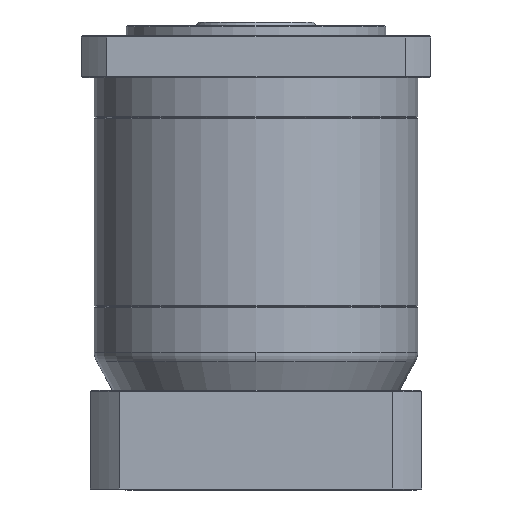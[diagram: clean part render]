
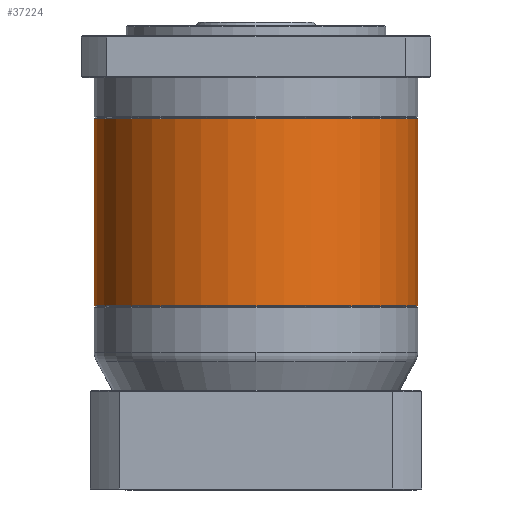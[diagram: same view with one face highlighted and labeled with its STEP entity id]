
A CAD part, front view. The second image highlights one B-rep face of the part: STEP entity #37224.
In plain terms, the highlighted cylindrical face has radius 81 mm (diameter 162 mm), a partial arc.
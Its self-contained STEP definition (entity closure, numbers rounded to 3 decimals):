
#2582 = CARTESIAN_POINT ( 'NONE',  ( 179.732, 48.034, 35.985 ) ) ;
#5570 = AXIS2_PLACEMENT_3D ( 'NONE', #10140, #74692, #31632 ) ;
#8881 = DIRECTION ( 'NONE',  ( 1., 0., 0. ) ) ;
#10140 = CARTESIAN_POINT ( 'NONE',  ( 179.732, 48.034, 35.485 ) ) ;
#12841 = DIRECTION ( 'NONE',  ( 0., 0., 1. ) ) ;
#19743 = EDGE_LOOP ( 'NONE', ( #66195, #39954, #23277, #78751 ) ) ;
#23277 = ORIENTED_EDGE ( 'NONE', *, *, #63926, .T. ) ;
#24003 = DIRECTION ( 'NONE',  ( 0., 0., 1. ) ) ;
#31632 = DIRECTION ( 'NONE',  ( 1., 0., 0. ) ) ;
#32986 = CYLINDRICAL_SURFACE ( 'NONE', #5570, 81. ) ;
#37224 = ADVANCED_FACE ( 'NONE', ( #79114 ), #32986, .T. ) ;
#38476 = VECTOR ( 'NONE', #12841, 1000. ) ;
#39174 = VERTEX_POINT ( 'NONE', #65184 ) ;
#39629 = DIRECTION ( 'NONE',  ( 0., 0., -1. ) ) ;
#39954 = ORIENTED_EDGE ( 'NONE', *, *, #86989, .T. ) ;
#43989 = VERTEX_POINT ( 'NONE', #67220 ) ;
#45420 = VECTOR ( 'NONE', #88467, 1000. ) ;
#45533 = EDGE_CURVE ( 'NONE', #81269, #93310, #46171, .T. ) ;
#46171 = CIRCLE ( 'NONE', #65459, 81. ) ;
#48459 = CARTESIAN_POINT ( 'NONE',  ( 260.732, 48.034, 35.485 ) ) ;
#52832 = CIRCLE ( 'NONE', #82235, 81. ) ;
#56422 = CARTESIAN_POINT ( 'NONE',  ( 260.732, 48.034, 129.485 ) ) ;
#63926 = EDGE_CURVE ( 'NONE', #39174, #81269, #65527, .T. ) ;
#64592 = LINE ( 'NONE', #80333, #45420 ) ;
#65184 = CARTESIAN_POINT ( 'NONE',  ( 260.732, 48.034, 35.985 ) ) ;
#65459 = AXIS2_PLACEMENT_3D ( 'NONE', #73623, #39629, #80516 ) ;
#65527 = LINE ( 'NONE', #48459, #38476 ) ;
#66195 = ORIENTED_EDGE ( 'NONE', *, *, #83459, .F. ) ;
#67220 = CARTESIAN_POINT ( 'NONE',  ( 98.732, 48.034, 35.985 ) ) ;
#73623 = CARTESIAN_POINT ( 'NONE',  ( 179.732, 48.034, 129.485 ) ) ;
#74692 = DIRECTION ( 'NONE',  ( 0., 0., 1. ) ) ;
#78751 = ORIENTED_EDGE ( 'NONE', *, *, #45533, .T. ) ;
#79114 = FACE_OUTER_BOUND ( 'NONE', #19743, .T. ) ;
#80333 = CARTESIAN_POINT ( 'NONE',  ( 98.732, 48.034, 35.485 ) ) ;
#80516 = DIRECTION ( 'NONE',  ( 1., 0., 0. ) ) ;
#81269 = VERTEX_POINT ( 'NONE', #56422 ) ;
#82235 = AXIS2_PLACEMENT_3D ( 'NONE', #2582, #24003, #8881 ) ;
#83459 = EDGE_CURVE ( 'NONE', #43989, #93310, #64592, .T. ) ;
#85183 = CARTESIAN_POINT ( 'NONE',  ( 98.732, 48.034, 129.485 ) ) ;
#86989 = EDGE_CURVE ( 'NONE', #43989, #39174, #52832, .T. ) ;
#88467 = DIRECTION ( 'NONE',  ( 0., 0., 1. ) ) ;
#93310 = VERTEX_POINT ( 'NONE', #85183 ) ;
